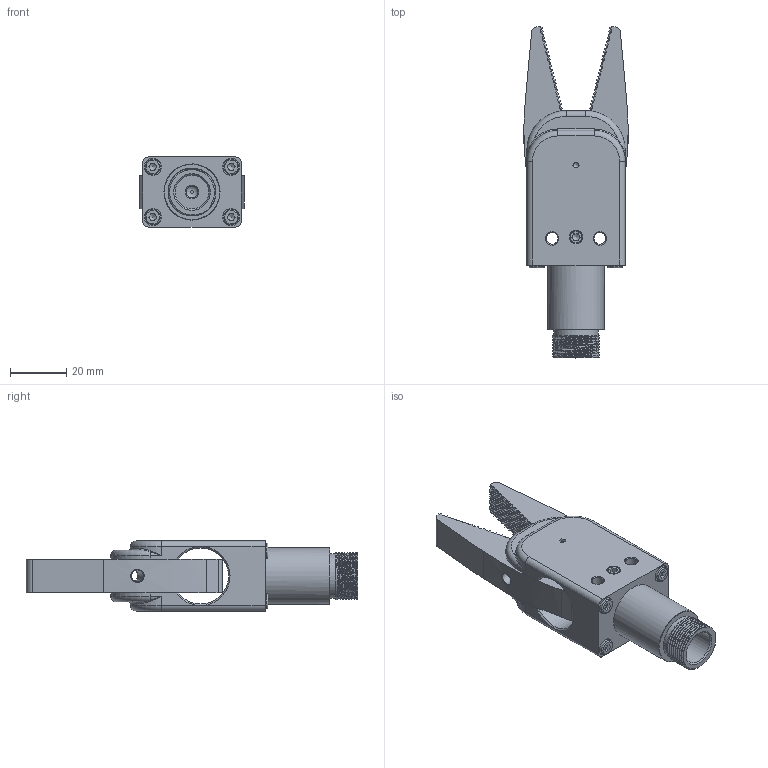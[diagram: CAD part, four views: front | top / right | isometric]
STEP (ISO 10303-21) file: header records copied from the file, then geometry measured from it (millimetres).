
FILE_DESCRIPTION(/* description */ (''),/* implementation_level */ '2;1');
FILE_NAME(/* name */ 'GR20A-20.stp',/* time_stamp */ '2023-03-08T14:12:10+08:00',/* author */ (''),/* organization */ (''),/* preprocessor_version */ 'ST-DEVELOPER v16',/* originating_system */ 'SIEMENS PLM Software NX 10.0',/* authorisation */ '');
FILE_SCHEMA (('AUTOMOTIVE_DESIGN { 1 0 10303 214 3 1 1 1 }'));
Length unit declared in the file: millimetre
Products named in the file (1): Admi115498B06j3h
Bounding box: 37.23 x 118.32 x 25 mm (x, y, z)
Volume: 43491.9 mm3; surface area: 22296.9 mm2
Topology: 1 solids, 16 shells, 1731 faces, 4391 edges, 2870 vertices
Faces by surface type: plane 1455, cylinder 127, cone 114, bspline 18, torus 17
Full cylindrical faces by diameter (mm): 2.5 x5, 3 x28, 3.2 x1, 3.4 x4, 3.541 x4, 4 x8, 4.038 x2, 4.2 x8, 5 x4, 5.5 x4, 6 x4, 7.8 x2, 12 x1, 15.8 x1, 20 x2
Entity records: 52753 total; most frequent: CARTESIAN_POINT 10674, ORIENTED_EDGE 8240, DIRECTION 7877, EDGE_CURVE 4120, LINE 3633, VECTOR 3633, VERTEX_POINT 2806, EDGE_LOOP 2148
